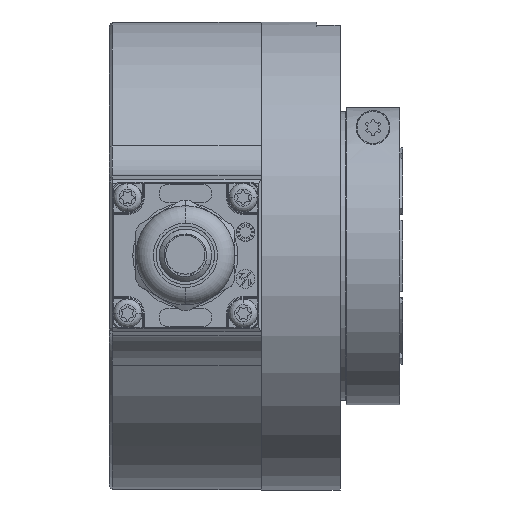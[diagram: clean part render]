
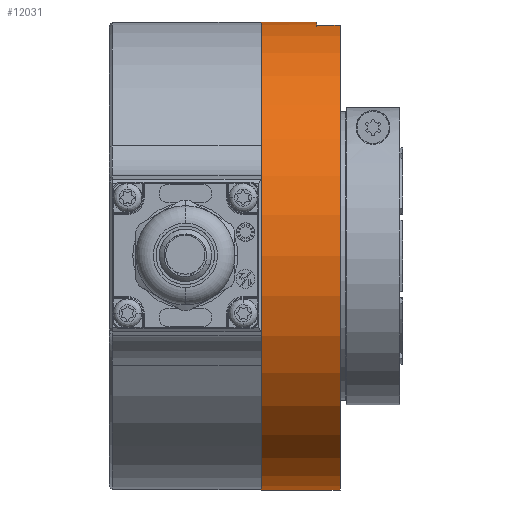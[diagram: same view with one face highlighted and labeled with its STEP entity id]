
A CAD part, top view. The second image highlights one B-rep face of the part: STEP entity #12031.
In plain terms, the highlighted cylindrical face has radius 40.075 mm (diameter 80.15 mm), a partial arc.
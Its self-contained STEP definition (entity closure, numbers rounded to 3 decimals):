
#260 = ORIENTED_EDGE ( 'NONE', *, *, #6126, .T. ) ;
#289 = CARTESIAN_POINT ( 'NONE',  ( 0., -40.075, 0. ) ) ;
#316 = CARTESIAN_POINT ( 'NONE',  ( -12.775, -40.075, 0. ) ) ;
#374 = CARTESIAN_POINT ( 'NONE',  ( 9.5, 40.075, 0. ) ) ;
#1157 = CIRCLE ( 'NONE', #3799, 40.075 ) ;
#1727 = CARTESIAN_POINT ( 'NONE',  ( -12.775, 0., 0. ) ) ;
#1759 = DIRECTION ( 'NONE',  ( -1., 0., 0. ) ) ;
#1963 = ORIENTED_EDGE ( 'NONE', *, *, #11692, .F. ) ;
#2044 = VECTOR ( 'NONE', #3303, 1000. ) ;
#2762 = CARTESIAN_POINT ( 'NONE',  ( -12.775, 39.468, 6.95 ) ) ;
#2863 = CARTESIAN_POINT ( 'NONE',  ( 0., 40.075, 0. ) ) ;
#3303 = DIRECTION ( 'NONE',  ( -1., 0., 0. ) ) ;
#3586 = FACE_OUTER_BOUND ( 'NONE', #3923, .T. ) ;
#3639 = LINE ( 'NONE', #316, #10229 ) ;
#3799 = AXIS2_PLACEMENT_3D ( 'NONE', #11163, #1759, #17645 ) ;
#3923 = EDGE_LOOP ( 'NONE', ( #1963, #260, #5388, #11372, #18561, #12986 ) ) ;
#5137 = DIRECTION ( 'NONE',  ( 0., 1., 0. ) ) ;
#5388 = ORIENTED_EDGE ( 'NONE', *, *, #20014, .T. ) ;
#6082 = VERTEX_POINT ( 'NONE', #17283 ) ;
#6126 = EDGE_CURVE ( 'NONE', #6082, #7721, #10219, .T. ) ;
#6407 = DIRECTION ( 'NONE',  ( -1., 0., 0. ) ) ;
#7721 = VERTEX_POINT ( 'NONE', #9980 ) ;
#8282 = AXIS2_PLACEMENT_3D ( 'NONE', #11426, #6407, #5137 ) ;
#8675 = DIRECTION ( 'NONE',  ( -1., 0., 0. ) ) ;
#9515 = CARTESIAN_POINT ( 'NONE',  ( 9.5, 39.468, 6.95 ) ) ;
#9561 = DIRECTION ( 'NONE',  ( 0., 1., 0. ) ) ;
#9576 = EDGE_CURVE ( 'NONE', #19970, #11024, #1157, .T. ) ;
#9902 = DIRECTION ( 'NONE',  ( -1., 0., 0. ) ) ;
#9980 = CARTESIAN_POINT ( 'NONE',  ( 13.5, 39.468, 6.95 ) ) ;
#10219 = CIRCLE ( 'NONE', #11863, 40.075 ) ;
#10229 = VECTOR ( 'NONE', #19206, 1000. ) ;
#11024 = VERTEX_POINT ( 'NONE', #2863 ) ;
#11163 = CARTESIAN_POINT ( 'NONE',  ( 0., 0., 0. ) ) ;
#11197 = CARTESIAN_POINT ( 'NONE',  ( 13.5, 0., 0. ) ) ;
#11337 = CYLINDRICAL_SURFACE ( 'NONE', #15528, 40.075 ) ;
#11372 = ORIENTED_EDGE ( 'NONE', *, *, #12007, .T. ) ;
#11426 = CARTESIAN_POINT ( 'NONE',  ( 9.5, 0., 0. ) ) ;
#11546 = CIRCLE ( 'NONE', #8282, 40.075 ) ;
#11692 = EDGE_CURVE ( 'NONE', #6082, #19970, #3639, .T. ) ;
#11863 = AXIS2_PLACEMENT_3D ( 'NONE', #11197, #17189, #9561 ) ;
#11963 = VERTEX_POINT ( 'NONE', #374 ) ;
#12007 = EDGE_CURVE ( 'NONE', #18641, #11963, #11546, .T. ) ;
#12031 = ADVANCED_FACE ( 'NONE', ( #3586 ), #11337, .T. ) ;
#12986 = ORIENTED_EDGE ( 'NONE', *, *, #9576, .F. ) ;
#14559 = EDGE_CURVE ( 'NONE', #11963, #11024, #20117, .T. ) ;
#15528 = AXIS2_PLACEMENT_3D ( 'NONE', #1727, #9902, #20409 ) ;
#16476 = LINE ( 'NONE', #2762, #17561 ) ;
#17189 = DIRECTION ( 'NONE',  ( -1., 0., 0. ) ) ;
#17283 = CARTESIAN_POINT ( 'NONE',  ( 13.5, -40.075, 0. ) ) ;
#17561 = VECTOR ( 'NONE', #8675, 1000. ) ;
#17645 = DIRECTION ( 'NONE',  ( 0., 1., 0. ) ) ;
#18561 = ORIENTED_EDGE ( 'NONE', *, *, #14559, .T. ) ;
#18641 = VERTEX_POINT ( 'NONE', #9515 ) ;
#19206 = DIRECTION ( 'NONE',  ( -1., 0., 0. ) ) ;
#19970 = VERTEX_POINT ( 'NONE', #289 ) ;
#20014 = EDGE_CURVE ( 'NONE', #7721, #18641, #16476, .T. ) ;
#20117 = LINE ( 'NONE', #20318, #2044 ) ;
#20318 = CARTESIAN_POINT ( 'NONE',  ( -12.775, 40.075, 0. ) ) ;
#20409 = DIRECTION ( 'NONE',  ( 0., 1., 0. ) ) ;
